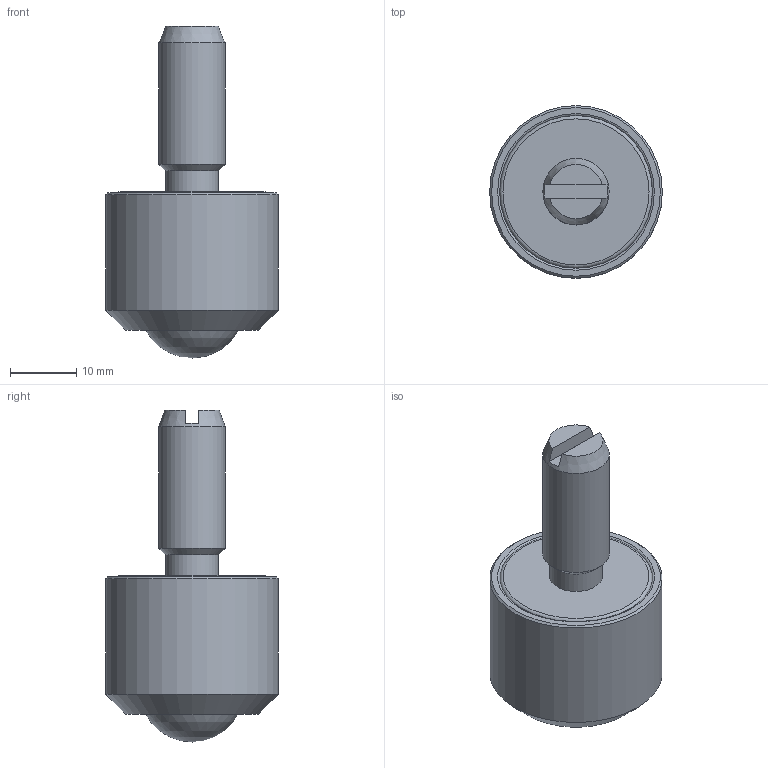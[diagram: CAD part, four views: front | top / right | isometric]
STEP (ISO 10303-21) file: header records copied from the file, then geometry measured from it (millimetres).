
FILE_DESCRIPTION(/* description */ (''),/* implementation_level */ '2;1');
FILE_NAME(/* name */ 'Z:\80-CAD共有ファイル\製品3D\X2\30C730FC30BF\X0\\13-IK-NM\IK-16NM.stp',/* time_stamp */ '2015-01-07T09:42:42+09:00',/* author */ ('yamaki'),/* organization */ (''),/* preprocessor_version */ 'ST-DEVELOPER v15.6',/* originating_system */ 'Autodesk Inventor 2015',/* authorisation */ '');
FILE_SCHEMA (('AUTOMOTIVE_DESIGN { 1 0 10303 214 3 1 1 }'));
Length unit declared in the file: millimetre
Products named in the file (1): 1316AA
Bounding box: 26 x 26 x 50 mm (x, y, z)
Volume: 12748.5 mm3; surface area: 3857.7 mm2
Topology: 1 solids, 1 shells, 24 faces, 48 edges, 29 vertices
Faces by surface type: plane 9, cylinder 6, cone 5, torus 3, sphere 1
Full cylindrical faces by diameter (mm): 8 x1, 10 x1, 15 x1, 16.6 x1, 23 x1, 26 x1
Entity records: 571 total; most frequent: DIRECTION 98, CARTESIAN_POINT 89, ORIENTED_EDGE 60, AXIS2_PLACEMENT_3D 47, EDGE_LOOP 42, EDGE_CURVE 30, VERTEX_POINT 26, STYLED_ITEM 25
